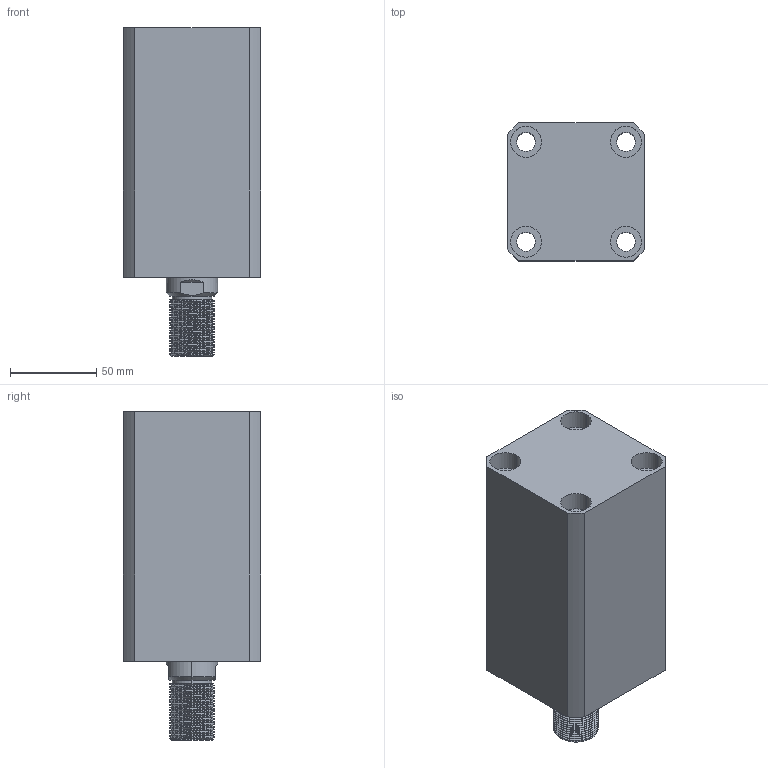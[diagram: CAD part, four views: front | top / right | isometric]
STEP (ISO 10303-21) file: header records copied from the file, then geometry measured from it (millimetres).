
FILE_DESCRIPTION (( 'STEP AP203' ), '1' );
FILE_NAME ('CHTB-SD50-80W.STEP', '2018-05-19T00:42:45', ( '' ), ( '' ), 'SwSTEP 2.0', 'SolidWorks 2015', '' );
FILE_SCHEMA (( 'CONFIG_CONTROL_DESIGN' ));
Length unit declared in the file: millimetre
Products named in the file (4): 活塞杆SD50-85W; CHTB-SD50-80W; 掛极SD50-85W; CHTM-SD50QG
Assembly tree (3 placements, depth 2):
  CHTB-SD50-80W
    掛极SD50-85W
    活塞杆SD50-85W
    CHTM-SD50QG
Bounding box: 80 x 80 x 191 mm (x, y, z)
Volume: 757365.8 mm3; surface area: 140648.7 mm2
Topology: 3 solids, 3 shells, 236 faces, 627 edges, 419 vertices
Faces by surface type: cylinder 144, plane 41, cone 19, bspline 16, torus 16
Entity records: 14613 total; most frequent: CARTESIAN_POINT 8784, ORIENTED_EDGE 1246, DIRECTION 1029, EDGE_CURVE 623, AXIS2_PLACEMENT_3D 422, VERTEX_POINT 419, EDGE_LOOP 276, ADVANCED_FACE 236
